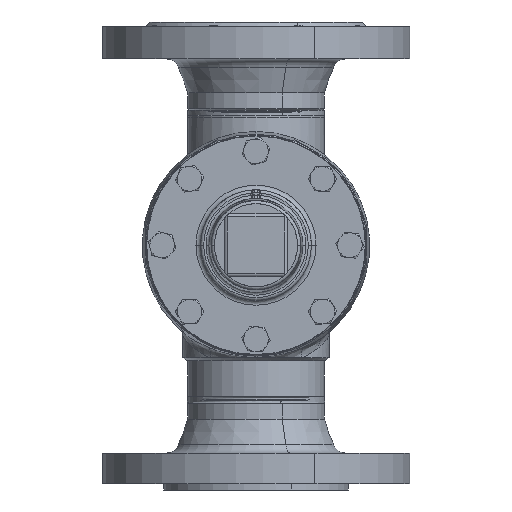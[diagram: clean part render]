
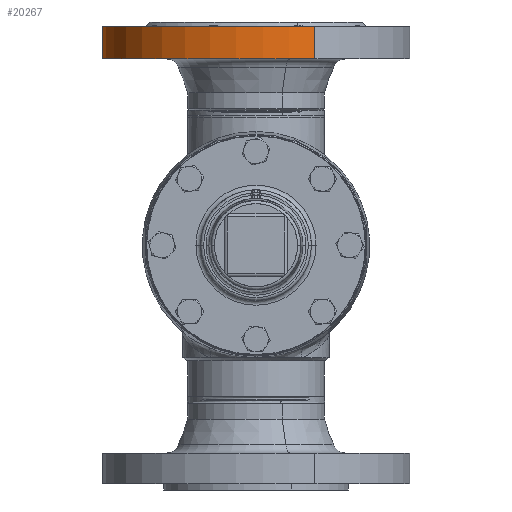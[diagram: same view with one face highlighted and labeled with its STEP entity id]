
A CAD part, front view. The second image highlights one B-rep face of the part: STEP entity #20267.
In plain terms, the highlighted cylindrical face has radius 100 mm (diameter 200 mm), a partial arc.
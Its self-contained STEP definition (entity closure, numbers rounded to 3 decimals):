
#17168 = VERTEX_POINT ( 'NONE', #32574 ) ;
#33548 = CARTESIAN_POINT ( 'NONE',  ( -100., 3., 0. ) ) ;
#33561 = VERTEX_POINT ( 'NONE', #26254 ) ;
#17600 = VERTEX_POINT ( 'NONE', #33548 ) ;
#18030 = EDGE_CURVE ( 'NONE', #17600, #17168, #39632, .T. ) ;
#18768 = ORIENTED_EDGE ( 'NONE', *, *, #18030, .T. ) ;
#19793 = EDGE_LOOP ( 'NONE', ( #18768, #16149, #13659, #32542 ) ) ;
#3649 = FACE_OUTER_BOUND ( 'NONE', #19793, .T. ) ;
#3650 = CYLINDRICAL_SURFACE ( 'NONE', #3651, 100. ) ;
#3651 = AXIS2_PLACEMENT_3D ( 'NONE', #3652, #3653, #3654 ) ;
#3652 = CARTESIAN_POINT ( 'NONE',  ( 0., 75., 0. ) ) ;
#3653 = DIRECTION ( 'NONE',  ( 0., 1., 0. ) ) ;
#3654 = DIRECTION ( 'NONE',  ( -1., 0., 0. ) ) ;
#20267 = ADVANCED_FACE ( 'NONE', ( #3649 ), #3650, .T. ) ;
#21521 = LINE ( 'NONE', #21522, #21523 ) ;
#21522 = CARTESIAN_POINT ( 'NONE',  ( -100., 75., 0. ) ) ;
#21523 = VECTOR ( 'NONE', #21524, 1000. ) ;
#21524 = DIRECTION ( 'NONE',  ( 0., 1., 0. ) ) ;
#39632 = CIRCLE ( 'NONE', #39633, 100. ) ;
#39633 = AXIS2_PLACEMENT_3D ( 'NONE', #39634, #39635, #39636 ) ;
#39634 = CARTESIAN_POINT ( 'NONE',  ( 0., 3., 0. ) ) ;
#39635 = DIRECTION ( 'NONE',  ( 0., 1., 0. ) ) ;
#39636 = DIRECTION ( 'NONE',  ( -1., 0., 0. ) ) ;
#9293 = CIRCLE ( 'NONE', #9294, 100. ) ;
#9294 = AXIS2_PLACEMENT_3D ( 'NONE', #9295, #9314, #9315 ) ;
#9295 = CARTESIAN_POINT ( 'NONE',  ( 0., 24., 0. ) ) ;
#9314 = DIRECTION ( 'NONE',  ( 0., 1., 0. ) ) ;
#9315 = DIRECTION ( 'NONE',  ( -1., 0., 0. ) ) ;
#26254 = CARTESIAN_POINT ( 'NONE',  ( -100., 24., 0. ) ) ;
#26338 = CARTESIAN_POINT ( 'NONE',  ( 100., 24., 0. ) ) ;
#27540 = LINE ( 'NONE', #27541, #27542 ) ;
#27541 = CARTESIAN_POINT ( 'NONE',  ( 100., 75., 0. ) ) ;
#27542 = VECTOR ( 'NONE', #27543, 1000. ) ;
#27543 = DIRECTION ( 'NONE',  ( 0., 1., 0. ) ) ;
#13327 = EDGE_CURVE ( 'NONE', #33561, #14984, #9293, .T. ) ;
#13659 = ORIENTED_EDGE ( 'NONE', *, *, #13327, .F. ) ;
#14984 = VERTEX_POINT ( 'NONE', #26338 ) ;
#15424 = EDGE_CURVE ( 'NONE', #17168, #14984, #27540, .T. ) ;
#31811 = EDGE_CURVE ( 'NONE', #17600, #33561, #21521, .T. ) ;
#16149 = ORIENTED_EDGE ( 'NONE', *, *, #15424, .T. ) ;
#32542 = ORIENTED_EDGE ( 'NONE', *, *, #31811, .F. ) ;
#32574 = CARTESIAN_POINT ( 'NONE',  ( 100., 3., 0. ) ) ;
